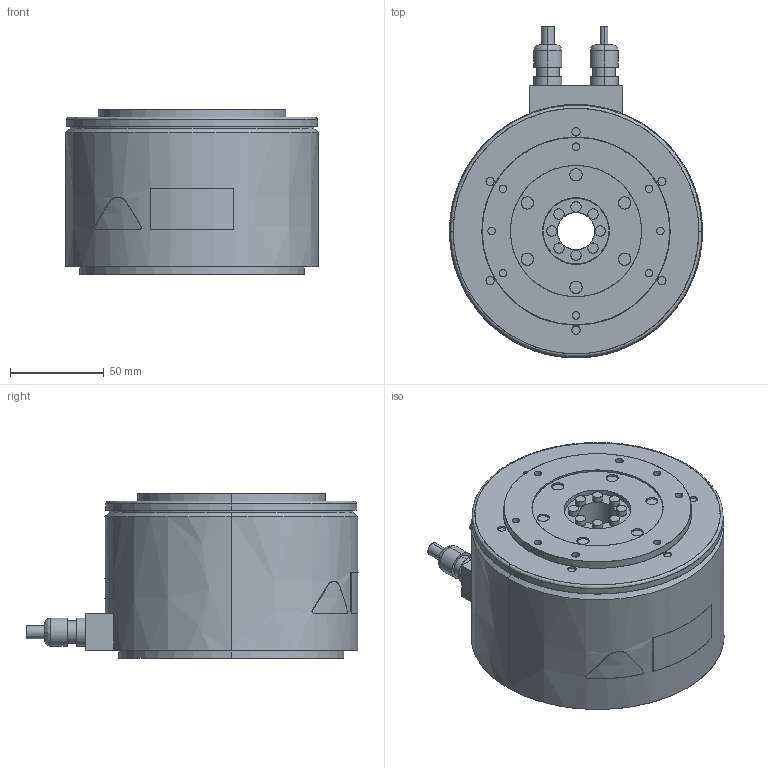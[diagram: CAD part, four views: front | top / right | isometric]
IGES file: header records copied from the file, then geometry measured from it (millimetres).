
Start section: SolidWorks IGES file using analytic representation for surfaces
Bounding box: 135 x 177.1 x 88 mm (x, y, z)
Surface area: 78759.5 mm2 (no closed solid volume)
Topology: 0 solids, 0 shells, 228 faces, 5485 edges, 5485 vertices
Faces by surface type: revolution 138, bspline 90
